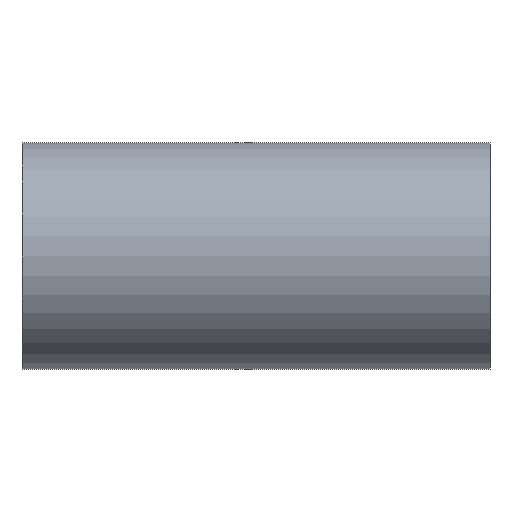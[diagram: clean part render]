
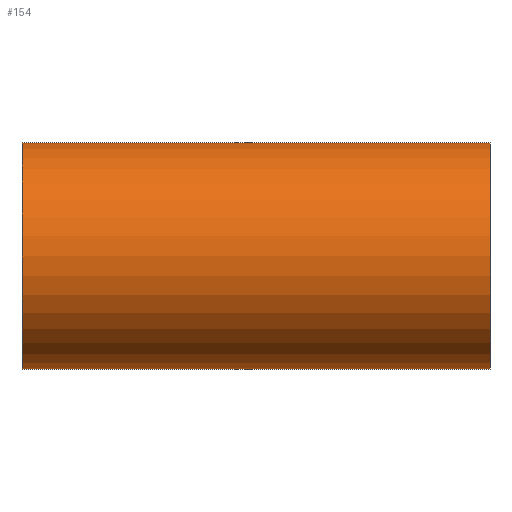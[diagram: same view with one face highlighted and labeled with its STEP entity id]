
A CAD part, front view. The second image highlights one B-rep face of the part: STEP entity #154.
In plain terms, the highlighted cylindrical face has radius 50.8 mm (diameter 101.6 mm), a partial arc.
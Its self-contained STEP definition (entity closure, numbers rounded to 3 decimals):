
#132 = DIRECTION ( 'NONE',  ( 1., 0., 0. ) ) ;
#154 = ADVANCED_FACE ( 'NONE', ( #872 ), #849, .T. ) ;
#155 = ORIENTED_EDGE ( 'NONE', *, *, #526, .T. ) ;
#169 = ORIENTED_EDGE ( 'NONE', *, *, #699, .T. ) ;
#210 = LINE ( 'NONE', #683, #997 ) ;
#263 = AXIS2_PLACEMENT_3D ( 'NONE', #286, #525, #458 ) ;
#286 = CARTESIAN_POINT ( 'NONE',  ( -104.8, 0., 0. ) ) ;
#295 = VERTEX_POINT ( 'NONE', #1097 ) ;
#344 = AXIS2_PLACEMENT_3D ( 'NONE', #970, #976, #977 ) ;
#371 = CIRCLE ( 'NONE', #344, 50.8 ) ;
#408 = EDGE_LOOP ( 'NONE', ( #573, #155, #169, #535 ) ) ;
#419 = CARTESIAN_POINT ( 'NONE',  ( -104.8, 0., -50.8 ) ) ;
#458 = DIRECTION ( 'NONE',  ( 0., 0., -1. ) ) ;
#471 = DIRECTION ( 'NONE',  ( 1., 0., 0. ) ) ;
#510 = VERTEX_POINT ( 'NONE', #1030 ) ;
#525 = DIRECTION ( 'NONE',  ( 1., 0., 0. ) ) ;
#526 = EDGE_CURVE ( 'NONE', #510, #559, #371, .T. ) ;
#535 = ORIENTED_EDGE ( 'NONE', *, *, #1078, .T. ) ;
#559 = VERTEX_POINT ( 'NONE', #1151 ) ;
#561 = DIRECTION ( 'NONE',  ( -1., 0., 0. ) ) ;
#573 = ORIENTED_EDGE ( 'NONE', *, *, #887, .F. ) ;
#598 = VECTOR ( 'NONE', #471, 1000. ) ;
#657 = DIRECTION ( 'NONE',  ( 0., 0., -1. ) ) ;
#683 = CARTESIAN_POINT ( 'NONE',  ( -104.8, 0., 50.8 ) ) ;
#699 = EDGE_CURVE ( 'NONE', #559, #295, #1142, .T. ) ;
#719 = CARTESIAN_POINT ( 'NONE',  ( 104.8, 0., 0. ) ) ;
#790 = CARTESIAN_POINT ( 'NONE',  ( 104.8, 0., 50.8 ) ) ;
#849 = CYLINDRICAL_SURFACE ( 'NONE', #263, 50.8 ) ;
#872 = FACE_OUTER_BOUND ( 'NONE', #408, .T. ) ;
#887 = EDGE_CURVE ( 'NONE', #510, #1186, #210, .T. ) ;
#932 = CIRCLE ( 'NONE', #1193, 50.8 ) ;
#970 = CARTESIAN_POINT ( 'NONE',  ( -104.8, 0., 0. ) ) ;
#976 = DIRECTION ( 'NONE',  ( 1., 0., 0. ) ) ;
#977 = DIRECTION ( 'NONE',  ( 0., 0., -1. ) ) ;
#997 = VECTOR ( 'NONE', #132, 1000. ) ;
#1030 = CARTESIAN_POINT ( 'NONE',  ( -104.8, 0., 50.8 ) ) ;
#1078 = EDGE_CURVE ( 'NONE', #295, #1186, #932, .T. ) ;
#1097 = CARTESIAN_POINT ( 'NONE',  ( 104.8, 0., -50.8 ) ) ;
#1142 = LINE ( 'NONE', #419, #598 ) ;
#1151 = CARTESIAN_POINT ( 'NONE',  ( -104.8, 0., -50.8 ) ) ;
#1186 = VERTEX_POINT ( 'NONE', #790 ) ;
#1193 = AXIS2_PLACEMENT_3D ( 'NONE', #719, #561, #657 ) ;
